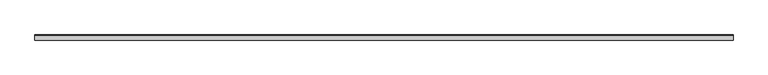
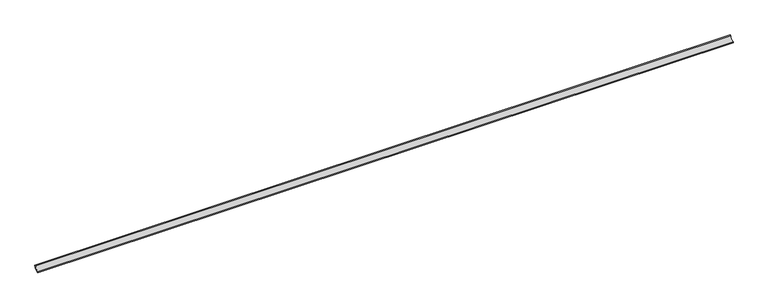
"""IFC4 building model written with IfcOpenShell, lengths in millimetres: proxy geometry, EXAGRES - Piscina Mediacaña : Publica_Azul_24.5x4cm."""

import ifcopenshell
import ifcopenshell.guid

model = None  # the IFC model being written
_history = None  # IfcOwnerHistory: only IFC2X3 demands one
_inside = {}  # id of a spatial element -> (the spatial element, [elements in it])
_under = {}  # id of a project, library or spatial element -> (it, [spatial elements below it])
_declared = {}  # id of a project -> (the project, [libraries it declares])
_typed = {}  # id of a type object -> (the type object, [elements of that type])
_made_of = {}  # id of a material, layer set ... -> (it, [elements and type objects made of it])


def new_model(schema):
    """Start an empty IFC model of exactly this schema.

    Asked for "IFC4X3", IfcOpenShell would pick the latest addendum, in which some entities
    have other attributes; the version numbers below select the first issue.
    IFC2X3 requires an IfcOwnerHistory on every rooted entity: one is made here for all.
    """
    global model, _history
    if schema == "IFC4X3":
        model = ifcopenshell.file(schema_version=(4, 3, 0, 0))
    else:
        model = ifcopenshell.file(schema=schema)
    _inside.clear()
    _under.clear()
    _declared.clear()
    _typed.clear()
    _made_of.clear()
    _history = None
    if model.schema == "IFC2X3":
        org = make("IfcOrganization", Name="unknown")
        user = make(
            "IfcPersonAndOrganization",
            ThePerson=make("IfcPerson", FamilyName="unknown"),
            TheOrganization=org,
        )
        app = make(
            "IfcApplication",
            ApplicationDeveloper=org,
            Version="unknown",
            ApplicationFullName="unknown",
            ApplicationIdentifier="unknown",
        )
        _history = make(
            "IfcOwnerHistory",
            OwningUser=user,
            OwningApplication=app,
            ChangeAction="ADDED",
            CreationDate=0,
        )
    return model


def make(cls, **values):
    """One entity of the class cls with the attributes given. An attribute that is None is left unset."""
    return model.create_entity(
        cls, **{name: value for name, value in values.items() if value is not None}
    )


def rooted(cls, **values):
    """An entity with a GlobalId (a new one), such as an element, a storey or a relation."""
    return make(cls, GlobalId=ifcopenshell.guid.new(), OwnerHistory=_history, **values)


def si_unit(unit_type, name, prefix=None):
    """IfcSIUnit, for example si_unit("LENGTHUNIT", "METRE", prefix="MILLI")."""
    return make("IfcSIUnit", UnitType=unit_type, Prefix=prefix, Name=name)


def assignment(units):
    """IfcUnitAssignment: the units of a project."""
    return None if units is None else make("IfcUnitAssignment", Units=units)


def point(xyz):
    """IfcCartesianPoint."""
    return None if xyz is None else make("IfcCartesianPoint", Coordinates=xyz)


def direction(xyz):
    """IfcDirection."""
    return None if xyz is None else make("IfcDirection", DirectionRatios=xyz)


def frame(location, z_axis=None, x_axis=None):
    """IfcAxis2Placement3D, a coordinate frame: its origin and axes. An axis left out is left unset."""
    return make(
        "IfcAxis2Placement3D",
        Location=point(location),
        Axis=direction(z_axis),
        RefDirection=direction(x_axis),
    )


def frame_2d(location, x_axis=None):
    """IfcAxis2Placement2D, a coordinate frame in the plane: its origin and x axis."""
    return make(
        "IfcAxis2Placement2D", Location=point(location), RefDirection=direction(x_axis)
    )


def origin():
    """The frame at (0, 0, 0) with its axes left unset."""
    return frame((0.0, 0.0, 0.0))


def place(relative_to, where):
    """IfcLocalPlacement: puts the frame where relative to a parent placement (None: the world)."""
    return make(
        "IfcLocalPlacement", PlacementRelTo=relative_to, RelativePlacement=where
    )


def context(
    kind, dimensions, precision=None, world=None, true_north=None, identifier=None
):
    """IfcGeometricRepresentationContext, for example the 3D "Model" context."""
    return make(
        "IfcGeometricRepresentationContext",
        ContextIdentifier=identifier,
        ContextType=kind,
        CoordinateSpaceDimension=dimensions,
        Precision=precision,
        WorldCoordinateSystem=world,
        TrueNorth=true_north,
    )


def project(units=None, contexts=None):
    """IfcProject with its units and contexts."""
    return rooted(
        "IfcProject",
        Name="project",
        RepresentationContexts=contexts,
        UnitsInContext=assignment(units),
    )


def spatial(cls, under=None, at=None, **own):
    """A site, building, storey or space (cls), placed at a placement, below another one or the project."""
    s = rooted(cls, ObjectPlacement=at, **own)
    if under is not None:
        _under.setdefault(under.id(), (under, []))[1].append(s)
    return s


def polyline(points):
    """IfcPolyline through the points."""
    return make("IfcPolyline", Points=[point(p) for p in points])


def circle_curve(where, radius):
    """IfcCircle in the frame where."""
    return make("IfcCircle", Position=where, Radius=radius)


def trimmed(basis, trim1, trim2, sense, master):
    """IfcTrimmedCurve: the piece of a basis curve between two trims."""
    return make(
        "IfcTrimmedCurve",
        BasisCurve=basis,
        Trim1=trim1,
        Trim2=trim2,
        SenseAgreement=sense,
        MasterRepresentation=master,
    )


def segment(curve, same_sense, transition):
    """IfcCompositeCurveSegment."""
    return make(
        "IfcCompositeCurveSegment",
        Transition=transition,
        SameSense=same_sense,
        ParentCurve=curve,
    )


def composite_curve(segments, self_intersect=None):
    """IfcCompositeCurve: segments joined end to end."""
    return make("IfcCompositeCurve", Segments=segments, SelfIntersect=self_intersect)


def outline(outer, holes=None, kind="AREA"):
    """IfcArbitraryClosedProfileDef: a profile drawn as a closed curve; with holes, ...WithVoids."""
    if holes is None:
        return make("IfcArbitraryClosedProfileDef", ProfileType=kind, OuterCurve=outer)
    return make(
        "IfcArbitraryProfileDefWithVoids",
        ProfileType=kind,
        OuterCurve=outer,
        InnerCurves=holes,
    )


def extrude(swept, where, along, depth):
    """IfcExtrudedAreaSolid: the profile swept, set in the frame where, extruded along a direction by depth."""
    return make(
        "IfcExtrudedAreaSolid",
        SweptArea=swept,
        Position=where,
        ExtrudedDirection=direction(along),
        Depth=depth,
    )


def shape(context_of_items, identifier, shape_type, items):
    """IfcShapeRepresentation: the items that make up one representation, for example the "Body"."""
    return make(
        "IfcShapeRepresentation",
        ContextOfItems=context_of_items,
        RepresentationIdentifier=identifier,
        RepresentationType=shape_type,
        Items=items,
    )


def source(mapping_origin, context_of_items, identifier, shape_type, items):
    """IfcRepresentationMap: a shape defined once, which mapped items show again and again."""
    return make(
        "IfcRepresentationMap",
        MappingOrigin=mapping_origin,
        MappedRepresentation=shape(context_of_items, identifier, shape_type, items),
    )


def transform(
    local_origin,
    x_axis=None,
    y_axis=None,
    z_axis=None,
    scale=None,
    scale2=None,
    scale3=None,
    uniform=True,
):
    """IfcCartesianTransformationOperator3D, or its non-uniform kind. x_axis, y_axis, z_axis: its Axis1, 2, 3."""
    if uniform:
        return make(
            "IfcCartesianTransformationOperator3D",
            Axis1=direction(x_axis),
            Axis2=direction(y_axis),
            LocalOrigin=point(local_origin),
            Scale=scale,
            Axis3=direction(z_axis),
        )
    return make(
        "IfcCartesianTransformationOperator3DnonUniform",
        Axis1=direction(x_axis),
        Axis2=direction(y_axis),
        LocalOrigin=point(local_origin),
        Scale=scale,
        Axis3=direction(z_axis),
        Scale2=scale2,
        Scale3=scale3,
    )


def mapped(mapping_source, mapping_target):
    """IfcMappedItem: shows the shape of a source again, moved by a transform."""
    return make(
        "IfcMappedItem", MappingSource=mapping_source, MappingTarget=mapping_target
    )


def made_of(thing, what):
    """Note that an element or type object is made of a material, layer set ...; save() writes the relation."""
    if what is not None:
        _made_of.setdefault(what.id(), (what, []))[1].append(thing)
    return thing


def element(
    cls,
    number,
    at=None,
    inside=None,
    cuts=None,
    type_object=None,
    material=None,
    context=None,
    identifier="Body",
    shape_type=None,
    held_by="IfcProductDefinitionShape",
    body=None,
    shapes=None,
    **own,
):
    """One element of the class cls, such as IfcWall. Its Tag is "e" and its number.

    at: its placement. inside: the storey or other place that contains it. cuts: it is an
    opening in that element (IfcRelVoidsElement). A single representation is given by context,
    identifier, shape_type and body (its items); several are given by shapes. held_by: the class
    of the entity that holds the representations. save() writes the other relations.
    """
    e = rooted(cls, Tag="e%d" % number, ObjectPlacement=at, **own)
    if body is not None:
        shapes = [shape(context, identifier, shape_type, body)]
    if shapes is not None:
        e.Representation = make(held_by, Representations=shapes)
    if inside is not None:
        _inside.setdefault(inside.id(), (inside, []))[1].append(e)
    if cuts is not None:
        rooted(
            "IfcRelVoidsElement", RelatingBuildingElement=cuts, RelatedOpeningElement=e
        )
    if type_object is not None:
        _typed.setdefault(type_object.id(), (type_object, []))[1].append(e)
    return made_of(e, material)


def aggregate(whole, parts):
    """IfcRelAggregates: a whole, such as a stair, and the parts it consists of."""
    return rooted("IfcRelAggregates", RelatingObject=whole, RelatedObjects=parts)


def save(model, path):
    """Write the relations noted so far, then the file.

    IfcRelAggregates (storeys below a building ...), IfcRelContainedInSpatialStructure (elements
    in a storey), IfcRelDefinesByType, IfcRelAssociatesMaterial and IfcRelDeclares: one each for
    every whole, place, type object, material and project.
    """
    for whole, parts in _under.values():
        aggregate(whole, parts)
    for where, things in _inside.values():
        rooted(
            "IfcRelContainedInSpatialStructure",
            RelatedElements=things,
            RelatingStructure=where,
        )
    for kind, things in _typed.values():
        rooted("IfcRelDefinesByType", RelatedObjects=things, RelatingType=kind)
    for what, things in _made_of.values():
        rooted("IfcRelAssociatesMaterial", RelatedObjects=things, RelatingMaterial=what)
    for by, libraries in _declared.values():
        rooted("IfcRelDeclares", RelatingContext=by, RelatedDefinitions=libraries)
    model.write(path)


def generic_models_0967b9bf(model_context):
    return source(origin(), model_context, "Body", "SweptSolid", [
        extrude(outline(composite_curve([segment(polyline([(0.0, 23.9), (6.4, 23.9)]), True, "CONTINUOUS"), segment(trimmed(circle_curve(frame_2d((-23.9, 23.9)), 30.3), [point((6.4, 23.9))], [point((-23.9, -6.4))], False, "CARTESIAN"), True, "CONTINUOUS"), segment(polyline([(-23.9, -6.4), (-23.9, 0.0)]), True, "CONTINUOUS"), segment(trimmed(circle_curve(frame_2d((-23.9, 23.9)), 23.9), [point((-23.9, 0.0))], [point((0.0, 23.9))], True, "CARTESIAN"), True, "CONTINUOUS")], self_intersect=False)), frame((0.0, 0.0, 0.0), z_axis=(1.0, 0.0, 0.0), x_axis=(0.0, 1.0, 0.0)), (0.0, 0.0, 1.0), 4125.0),
    ])


if __name__ == "__main__":
    model = new_model("IFC4")
    model_context = context("Model", 3, world=origin())
    ifc_project = project(units=[si_unit("LENGTHUNIT", "METRE", prefix="MILLI")], contexts=[model_context])
    site = spatial("IfcSite", under=ifc_project)
    building = spatial("IfcBuilding", under=site)
    placement = place(None, origin())
    generic_models_shape = generic_models_0967b9bf(model_context)
    element("IfcBuildingElementProxy", 1, Name="EXAGRES - Piscina Mediacaña : Publica_Azul_24.5x4cm", ObjectType="EXAGRES - Piscina Mediacaña : Publica_Azul_24.5x4cm", at=placement, inside=building, context=model_context, shape_type="MappedRepresentation", body=[
        mapped(generic_models_shape, transform((0.0, 0.0, 0.0), x_axis=(1.0, 0.0, 0.0), y_axis=(0.0, 1.0, 0.0), z_axis=(0.0, 0.0, 1.0))),
    ])
    save(model, "model.ifc")
